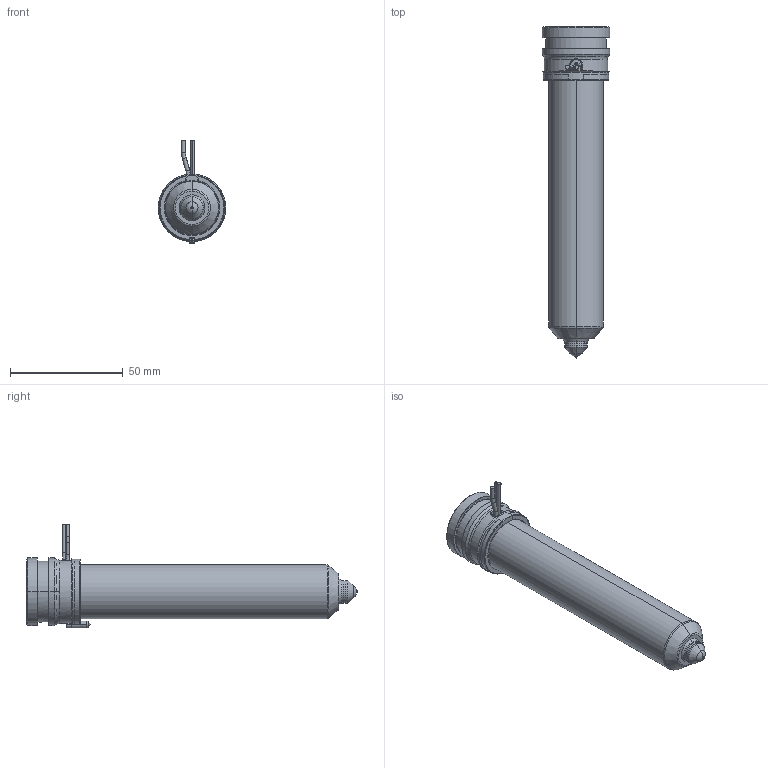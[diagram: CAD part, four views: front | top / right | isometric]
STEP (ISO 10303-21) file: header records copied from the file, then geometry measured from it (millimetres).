
FILE_DESCRIPTION((''),'2;1');
FILE_NAME('MPN-10-29-VX10-126-A','2026-02-05T12:41:01',('UPTIO'),('Thermoplay S.p.A.'),'CREO PARAMETRIC BY PTC INC, 2023494','CREO PARAMETRIC BY PTC INC, 2023494','');
FILE_SCHEMA(('CONFIG_CONTROL_DESIGN','SHAPE_APPEARANCE_LAYERS_GROUPS'));
Length unit declared in the file: millimetre
Products named in the file (1): MPN-10-29-VX10-126-A
Bounding box: 30 x 147.5 x 46 mm (x, y, z)
Volume: 45862.3 mm3; surface area: 46249.8 mm2
Topology: 2 solids, 3 shells, 557 faces, 1459 edges, 901 vertices
Faces by surface type: cylinder 182, plane 144, bspline 76, torus 72, cone 70, sphere 9, extrusion 4
Entity records: 28983 total; most frequent: CARTESIAN_POINT 12476, ORIENTED_EDGE 2906, DIRECTION 2711, EDGE_CURVE 1453, AXIS2_PLACEMENT_3D 1078, VERTEX_POINT 901, CIRCLE 600, EDGE_LOOP 586
